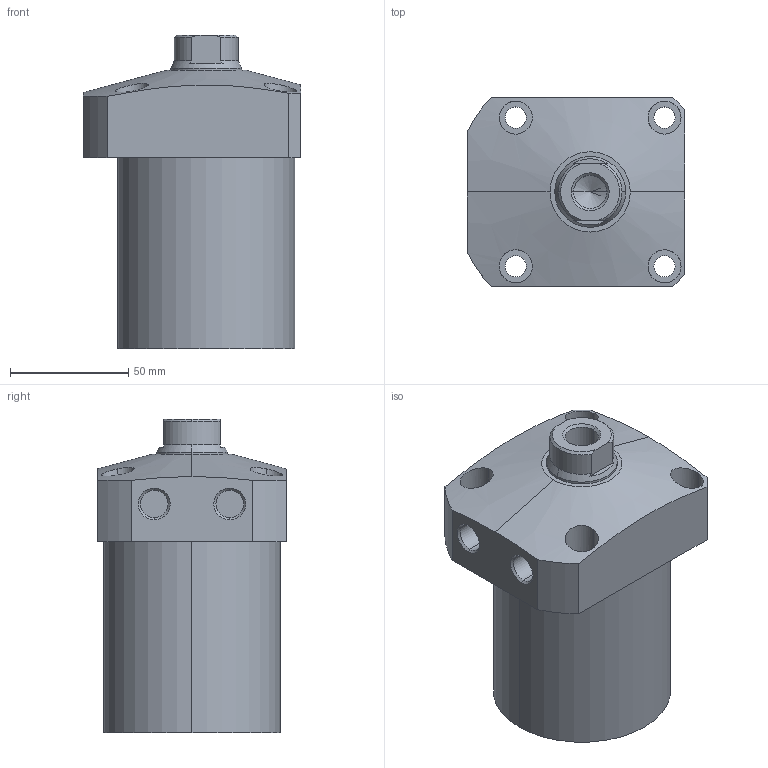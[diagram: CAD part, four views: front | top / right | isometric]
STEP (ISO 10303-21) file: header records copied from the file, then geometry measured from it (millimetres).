
FILE_DESCRIPTION (( 'STEP AP203' ), '1' );
FILE_NAME ('CLL-075CA-070.STEP', '2019-12-20T05:57:13', ( '' ), ( '' ), 'SwSTEP 2.0', 'SolidWorks 2015', '' );
FILE_SCHEMA (( 'CONFIG_CONTROL_DESIGN' ));
Length unit declared in the file: millimetre
Products named in the file (1): CLL-075CA-070
Bounding box: 92 x 80 x 133 mm (x, y, z)
Volume: 580545.3 mm3; surface area: 50361 mm2
Topology: 1 solids, 1 shells, 72 faces, 169 edges, 108 vertices
Faces by surface type: cylinder 35, plane 22, cone 15
Entity records: 2557 total; most frequent: CARTESIAN_POINT 792, DIRECTION 366, ORIENTED_EDGE 334, EDGE_CURVE 167, AXIS2_PLACEMENT_3D 150, VERTEX_POINT 108, EDGE_LOOP 91, CIRCLE 77
